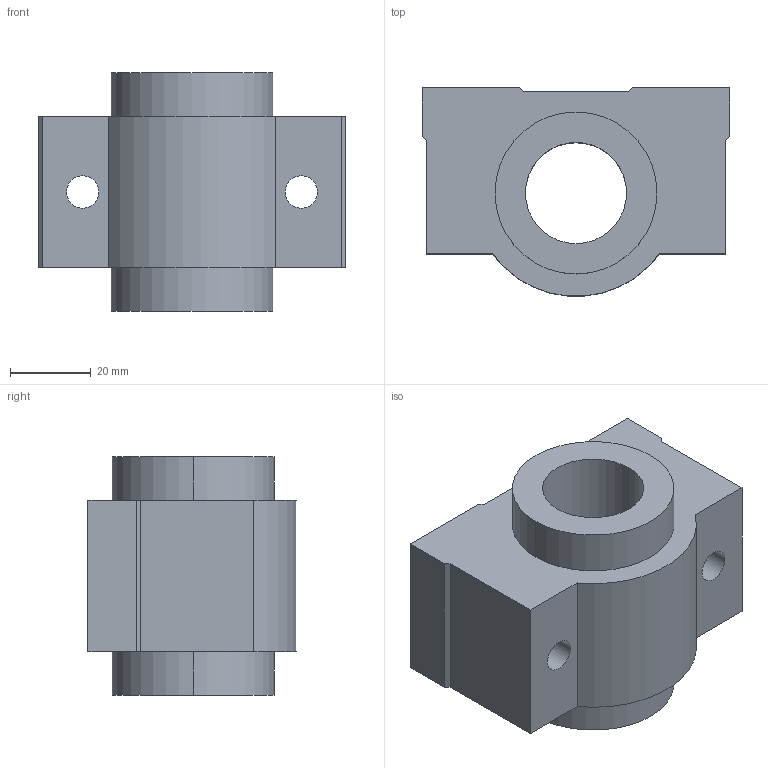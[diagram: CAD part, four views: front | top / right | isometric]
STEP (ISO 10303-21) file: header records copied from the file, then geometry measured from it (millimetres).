
FILE_DESCRIPTION((''),'2;1');
FILE_NAME('C:\Documents and Settings\ｿﾀﾀ蠑ｷ1\ｹﾙﾅﾁ ﾈｭｸ饅\ｺﾎﾇｰﾆﾄﾀﾏ\ﾁｦﾇｰ\SC__VUUN\SC25VUUN.stp','2005-06-22T11:24:06',('ｿﾀﾀ蠑ｷ1'),(''),'Autodesk Inventor 9','Autodesk Inventor 9','');
FILE_SCHEMA(('AUTOMOTIVE_DESIGN { 1 0 10303 214 1 1 1 1 }'));
Length unit declared in the file: millimetre
Products named in the file (1): SC__VUUN
Bounding box: 76 x 51.41 x 59 mm (x, y, z)
Volume: 118795.4 mm3; surface area: 23889.2 mm2
Topology: 1 solids, 1 shells, 28 faces, 72 edges, 48 vertices
Faces by surface type: plane 17, cylinder 7, bspline 4
Entity records: 945 total; most frequent: CARTESIAN_POINT 217, DIRECTION 144, ORIENTED_EDGE 144, EDGE_CURVE 72, VECTOR 50, LINE 50, VERTEX_POINT 48, AXIS2_PLACEMENT_3D 47
